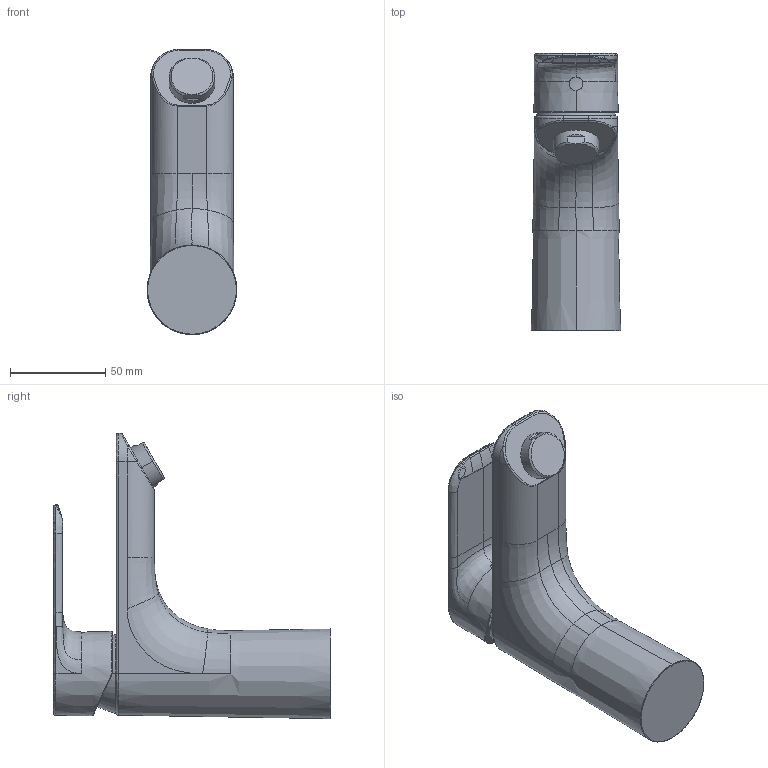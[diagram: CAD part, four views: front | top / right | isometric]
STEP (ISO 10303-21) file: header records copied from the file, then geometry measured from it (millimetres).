
FILE_DESCRIPTION (( 'STEP AP203' ), '1' );
FILE_NAME ('55502243(2025)+5550224300006(2025).STEP', '2024-12-03T08:52:43', ( '' ), ( '' ), 'SwSTEP 2.0', 'SolidWorks 2024', '' );
FILE_SCHEMA (( 'CONFIG_CONTROL_DESIGN' ));
Length unit declared in the file: millimetre
Products named in the file (1): 55502243(2025)+5550224300006(2025)
Bounding box: 46.99 x 145.45 x 149.49 mm (x, y, z)
Volume: 332962.1 mm3; surface area: 42096.7 mm2
Topology: 1 solids, 1 shells, 155 faces, 384 edges, 232 vertices
Faces by surface type: bspline 113, plane 18, cylinder 15, cone 7, torus 2
Entity records: 12875 total; most frequent: CARTESIAN_POINT 10057, ORIENTED_EDGE 768, EDGE_CURVE 384, DIRECTION 306, VERTEX_POINT 232, B_SPLINE_CURVE_WITH_KNOTS 180, EDGE_LOOP 156, FACE_OUTER_BOUND 155
